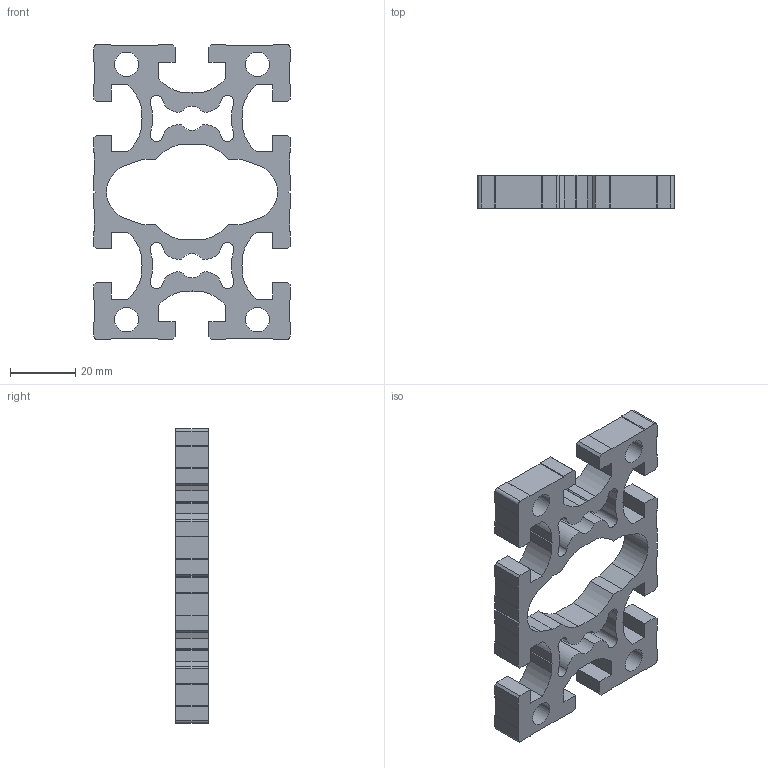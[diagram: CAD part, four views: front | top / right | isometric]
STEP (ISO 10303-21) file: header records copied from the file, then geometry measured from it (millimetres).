
FILE_DESCRIPTION((''),'2;1');
FILE_NAME('PR060090P','2002-12-27T',('Lipro doo'),('Lipro d.o.o.'),'PRO/ENGINEER BY PARAMETRIC TECHNOLOGY CORPORATION, 2001150','PRO/ENGINEER BY PARAMETRIC TECHNOLOGY CORPORATION, 2001150','');
FILE_SCHEMA(('CONFIG_CONTROL_DESIGN'));
Length unit declared in the file: millimetre
Products named in the file (1): PR060090P
Bounding box: 60 x 10 x 90 mm (x, y, z)
Volume: 24078.5 mm3; surface area: 14410.1 mm2
Topology: 1 solids, 1 shells, 202 faces, 600 edges, 400 vertices
Faces by surface type: plane 148, cylinder 54
Entity records: 6798 total; most frequent: CARTESIAN_POINT 1202, ORIENTED_EDGE 1200, DIRECTION 1112, EDGE_CURVE 600, VECTOR 492, LINE 492, VERTEX_POINT 400, AXIS2_PLACEMENT_3D 310
